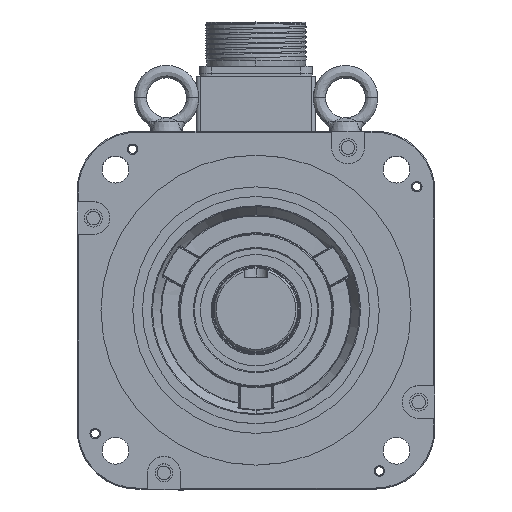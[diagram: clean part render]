
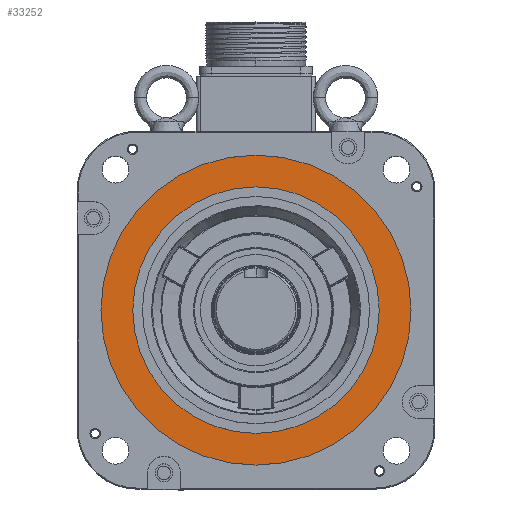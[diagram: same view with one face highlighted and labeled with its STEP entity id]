
A CAD part, top view. The second image highlights one B-rep face of the part: STEP entity #33252.
In plain terms, the highlighted planar face has unit normal (0, 0, -1).
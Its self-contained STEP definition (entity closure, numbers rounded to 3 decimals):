
#2989 = ORIENTED_EDGE ( 'NONE', *, *, #22663, .F. ) ;
#5422 = DIRECTION ( 'NONE',  ( 0., 0., 1. ) ) ;
#6512 = CIRCLE ( 'NONE', #15281, 62. ) ;
#6888 = CIRCLE ( 'NONE', #32794, 62. ) ;
#8631 = CARTESIAN_POINT ( 'NONE',  ( 36.315, 219.183, 90.807 ) ) ;
#10705 = EDGE_CURVE ( 'NONE', #33321, #25103, #15684, .T. ) ;
#12362 = DIRECTION ( 'NONE',  ( 1., 0., 0. ) ) ;
#13414 = EDGE_LOOP ( 'NONE', ( #2989, #20693 ) ) ;
#13481 = FACE_OUTER_BOUND ( 'NONE', #44787, .T. ) ;
#13642 = PLANE ( 'NONE',  #37640 ) ;
#15281 = AXIS2_PLACEMENT_3D ( 'NONE', #8631, #34562, #12362 ) ;
#15684 = CIRCLE ( 'NONE', #46227, 78. ) ;
#16753 = DIRECTION ( 'NONE',  ( 0., 0., 1. ) ) ;
#17357 = DIRECTION ( 'NONE',  ( 1., 0., 0. ) ) ;
#17524 = CARTESIAN_POINT ( 'NONE',  ( -41.685, 219.183, 90.807 ) ) ;
#19583 = CARTESIAN_POINT ( 'NONE',  ( 36.315, 219.183, 90.807 ) ) ;
#20693 = ORIENTED_EDGE ( 'NONE', *, *, #27027, .F. ) ;
#22663 = EDGE_CURVE ( 'NONE', #28295, #43630, #6512, .T. ) ;
#23313 = DIRECTION ( 'NONE',  ( 1., 0., 0. ) ) ;
#24116 = EDGE_CURVE ( 'NONE', #25103, #33321, #40025, .T. ) ;
#25103 = VERTEX_POINT ( 'NONE', #38164 ) ;
#27027 = EDGE_CURVE ( 'NONE', #43630, #28295, #6888, .T. ) ;
#27613 = CARTESIAN_POINT ( 'NONE',  ( 36.315, 219.183, 90.807 ) ) ;
#27878 = ORIENTED_EDGE ( 'NONE', *, *, #24116, .F. ) ;
#28295 = VERTEX_POINT ( 'NONE', #43301 ) ;
#31326 = DIRECTION ( 'NONE',  ( 1., 0., 0. ) ) ;
#32092 = CARTESIAN_POINT ( 'NONE',  ( 36.315, 219.183, 90.807 ) ) ;
#32794 = AXIS2_PLACEMENT_3D ( 'NONE', #19583, #45534, #23313 ) ;
#33252 = ADVANCED_FACE ( 'NONE', ( #13481, #41919 ), #13642, .F. ) ;
#33321 = VERTEX_POINT ( 'NONE', #17524 ) ;
#34562 = DIRECTION ( 'NONE',  ( 0., 0., -1. ) ) ;
#37640 = AXIS2_PLACEMENT_3D ( 'NONE', #32092, #39552, #17357 ) ;
#38164 = CARTESIAN_POINT ( 'NONE',  ( 114.315, 219.183, 90.807 ) ) ;
#38934 = CARTESIAN_POINT ( 'NONE',  ( 36.315, 219.183, 90.807 ) ) ;
#39552 = DIRECTION ( 'NONE',  ( 0., 0., 1. ) ) ;
#40025 = CIRCLE ( 'NONE', #43897, 78. ) ;
#41919 = FACE_BOUND ( 'NONE', #13414, .T. ) ;
#42706 = DIRECTION ( 'NONE',  ( 1., 0., 0. ) ) ;
#43301 = CARTESIAN_POINT ( 'NONE',  ( 98.315, 219.183, 90.807 ) ) ;
#43630 = VERTEX_POINT ( 'NONE', #47748 ) ;
#43897 = AXIS2_PLACEMENT_3D ( 'NONE', #38934, #16753, #42706 ) ;
#44787 = EDGE_LOOP ( 'NONE', ( #27878, #47722 ) ) ;
#45534 = DIRECTION ( 'NONE',  ( 0., 0., -1. ) ) ;
#46227 = AXIS2_PLACEMENT_3D ( 'NONE', #27613, #5422, #31326 ) ;
#47722 = ORIENTED_EDGE ( 'NONE', *, *, #10705, .F. ) ;
#47748 = CARTESIAN_POINT ( 'NONE',  ( -25.685, 219.183, 90.807 ) ) ;
